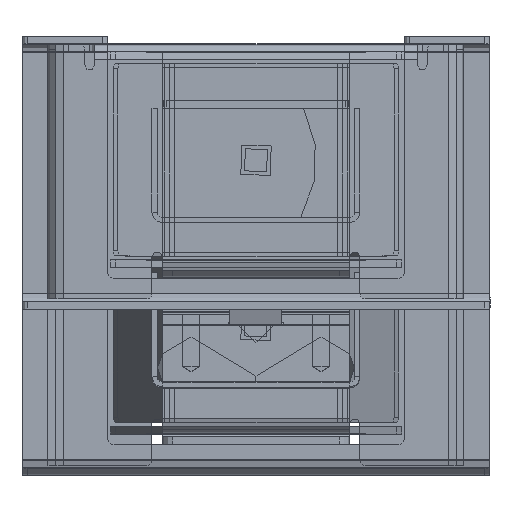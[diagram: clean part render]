
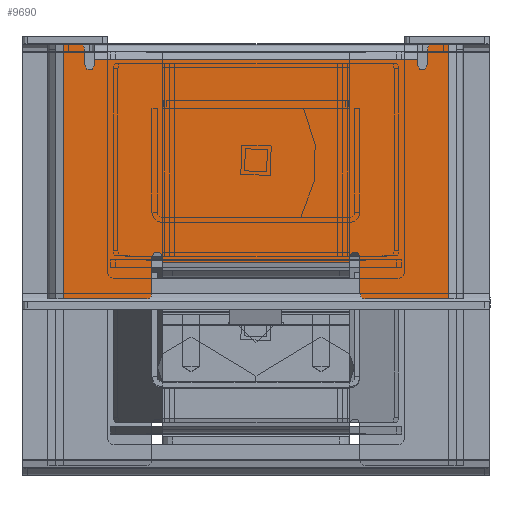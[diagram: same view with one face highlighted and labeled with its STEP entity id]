
A CAD part, top view. The second image highlights one B-rep face of the part: STEP entity #9690.
In plain terms, the highlighted planar face has unit normal (0, 0, 1).
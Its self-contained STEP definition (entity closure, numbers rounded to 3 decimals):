
#298=PLANE('',#10496);
#776=FACE_OUTER_BOUND('',#1346,.T.);
#1346=EDGE_LOOP('',(#7460,#7461,#7462,#7463,#7464,#7465,#7466,#7467,#7468,
#7469,#7470,#7471,#7472,#7473,#7474,#7475,#7476,#7477,#7478,#7479,#7480,
#7481,#7482,#7483));
#2085=LINE('',#15002,#3045);
#2104=LINE('',#15056,#3064);
#2151=LINE('',#15189,#3111);
#2155=LINE('',#15199,#3115);
#2159=LINE('',#15209,#3119);
#2163=LINE('',#15223,#3123);
#2165=LINE('',#15228,#3125);
#2166=LINE('',#15229,#3126);
#2167=LINE('',#15231,#3127);
#2168=LINE('',#15232,#3128);
#2169=LINE('',#15233,#3129);
#2170=LINE('',#15234,#3130);
#2171=LINE('',#15236,#3131);
#2172=LINE('',#15237,#3132);
#2173=LINE('',#15239,#3133);
#2174=LINE('',#15242,#3134);
#3045=VECTOR('',#12262,10.);
#3064=VECTOR('',#12303,10.);
#3111=VECTOR('',#12424,10.);
#3115=VECTOR('',#12434,10.);
#3119=VECTOR('',#12444,10.);
#3123=VECTOR('',#12462,10.);
#3125=VECTOR('',#12466,10.);
#3126=VECTOR('',#12467,10.);
#3127=VECTOR('',#12468,10.);
#3128=VECTOR('',#12469,10.);
#3129=VECTOR('',#12470,10.);
#3130=VECTOR('',#12471,10.);
#3131=VECTOR('',#12472,10.);
#3132=VECTOR('',#12473,10.);
#3133=VECTOR('',#12474,10.);
#3134=VECTOR('',#12477,10.);
#3704=CIRCLE('',#10432,1.);
#3713=CIRCLE('',#10444,1.);
#3732=CIRCLE('',#10481,1.);
#3733=CIRCLE('',#10484,1.);
#3734=CIRCLE('',#10487,1.);
#3735=CIRCLE('',#10490,1.);
#3736=CIRCLE('',#10494,1.);
#3737=CIRCLE('',#10497,1.);
#4273=VERTEX_POINT('',#14989);
#4274=VERTEX_POINT('',#14990);
#4278=VERTEX_POINT('',#15000);
#4300=VERTEX_POINT('',#15048);
#4301=VERTEX_POINT('',#15050);
#4302=VERTEX_POINT('',#15054);
#4349=VERTEX_POINT('',#15182);
#4350=VERTEX_POINT('',#15183);
#4351=VERTEX_POINT('',#15188);
#4352=VERTEX_POINT('',#15192);
#4353=VERTEX_POINT('',#15194);
#4354=VERTEX_POINT('',#15198);
#4355=VERTEX_POINT('',#15202);
#4356=VERTEX_POINT('',#15206);
#4357=VERTEX_POINT('',#15208);
#4358=VERTEX_POINT('',#15212);
#4359=VERTEX_POINT('',#15218);
#4360=VERTEX_POINT('',#15222);
#4361=VERTEX_POINT('',#15226);
#4362=VERTEX_POINT('',#15227);
#4363=VERTEX_POINT('',#15230);
#4364=VERTEX_POINT('',#15235);
#4365=VERTEX_POINT('',#15238);
#4366=VERTEX_POINT('',#15240);
#5335=EDGE_CURVE('',#4273,#4274,#3704,.T.);
#5341=EDGE_CURVE('',#4273,#4278,#2085,.T.);
#5365=EDGE_CURVE('',#4300,#4301,#3713,.T.);
#5368=EDGE_CURVE('',#4302,#4300,#2104,.T.);
#5431=EDGE_CURVE('',#4349,#4350,#3732,.T.);
#5434=EDGE_CURVE('',#4351,#4350,#2151,.T.);
#5437=EDGE_CURVE('',#4352,#4353,#3733,.T.);
#5439=EDGE_CURVE('',#4354,#4353,#2155,.T.);
#5441=EDGE_CURVE('',#4355,#4278,#3734,.T.);
#5444=EDGE_CURVE('',#4357,#4356,#2159,.T.);
#5446=EDGE_CURVE('',#4358,#4356,#3735,.T.);
#5448=EDGE_CURVE('',#4354,#4359,#3736,.T.);
#5450=EDGE_CURVE('',#4359,#4360,#2163,.T.);
#5452=EDGE_CURVE('',#4361,#4362,#2165,.T.);
#5453=EDGE_CURVE('',#4274,#4362,#2166,.T.);
#5454=EDGE_CURVE('',#4355,#4363,#2167,.T.);
#5455=EDGE_CURVE('',#4363,#4357,#2168,.T.);
#5456=EDGE_CURVE('',#4358,#4301,#2169,.T.);
#5457=EDGE_CURVE('',#4302,#4360,#2170,.T.);
#5458=EDGE_CURVE('',#4352,#4364,#2171,.T.);
#5459=EDGE_CURVE('',#4364,#4351,#2172,.T.);
#5460=EDGE_CURVE('',#4349,#4365,#2173,.T.);
#5461=EDGE_CURVE('',#4366,#4365,#3737,.T.);
#5462=EDGE_CURVE('',#4361,#4366,#2174,.T.);
#7460=ORIENTED_EDGE('',*,*,#5452,.T.);
#7461=ORIENTED_EDGE('',*,*,#5453,.F.);
#7462=ORIENTED_EDGE('',*,*,#5335,.F.);
#7463=ORIENTED_EDGE('',*,*,#5341,.T.);
#7464=ORIENTED_EDGE('',*,*,#5441,.F.);
#7465=ORIENTED_EDGE('',*,*,#5454,.T.);
#7466=ORIENTED_EDGE('',*,*,#5455,.T.);
#7467=ORIENTED_EDGE('',*,*,#5444,.T.);
#7468=ORIENTED_EDGE('',*,*,#5446,.F.);
#7469=ORIENTED_EDGE('',*,*,#5456,.T.);
#7470=ORIENTED_EDGE('',*,*,#5365,.F.);
#7471=ORIENTED_EDGE('',*,*,#5368,.F.);
#7472=ORIENTED_EDGE('',*,*,#5457,.T.);
#7473=ORIENTED_EDGE('',*,*,#5450,.F.);
#7474=ORIENTED_EDGE('',*,*,#5448,.F.);
#7475=ORIENTED_EDGE('',*,*,#5439,.T.);
#7476=ORIENTED_EDGE('',*,*,#5437,.F.);
#7477=ORIENTED_EDGE('',*,*,#5458,.T.);
#7478=ORIENTED_EDGE('',*,*,#5459,.T.);
#7479=ORIENTED_EDGE('',*,*,#5434,.T.);
#7480=ORIENTED_EDGE('',*,*,#5431,.F.);
#7481=ORIENTED_EDGE('',*,*,#5460,.T.);
#7482=ORIENTED_EDGE('',*,*,#5461,.F.);
#7483=ORIENTED_EDGE('',*,*,#5462,.F.);
#9690=ADVANCED_FACE('',(#776),#298,.T.);
#10432=AXIS2_PLACEMENT_3D('',#14991,#12252,#12253);
#10444=AXIS2_PLACEMENT_3D('',#15051,#12297,#12298);
#10481=AXIS2_PLACEMENT_3D('',#15184,#12418,#12419);
#10484=AXIS2_PLACEMENT_3D('',#15195,#12429,#12430);
#10487=AXIS2_PLACEMENT_3D('',#15203,#12438,#12439);
#10490=AXIS2_PLACEMENT_3D('',#15213,#12448,#12449);
#10494=AXIS2_PLACEMENT_3D('',#15219,#12457,#12458);
#10496=AXIS2_PLACEMENT_3D('',#15225,#12464,#12465);
#10497=AXIS2_PLACEMENT_3D('',#15241,#12475,#12476);
#12252=DIRECTION('center_axis',(0.,0.,
-1.));
#12253=DIRECTION('ref_axis',(0.707,-0.707,0.));
#12262=DIRECTION('',(0.,1.,0.));
#12297=DIRECTION('center_axis',(0.,0.,
-1.));
#12298=DIRECTION('ref_axis',(-0.707,-0.707,0.));
#12303=DIRECTION('',(-1.,0.,0.));
#12418=DIRECTION('center_axis',(0.,0.,
1.));
#12419=DIRECTION('ref_axis',(-0.707,-0.707,0.));
#12424=DIRECTION('',(0.,-1.,0.));
#12429=DIRECTION('center_axis',(0.,0.,
1.));
#12430=DIRECTION('ref_axis',(-0.707,-0.707,0.));
#12434=DIRECTION('',(0.,-1.,0.));
#12438=DIRECTION('center_axis',(0.,0.,
1.));
#12439=DIRECTION('ref_axis',(0.707,0.707,0.));
#12444=DIRECTION('',(0.,1.,0.));
#12448=DIRECTION('center_axis',(0.,0.,
1.));
#12449=DIRECTION('ref_axis',(0.707,0.707,0.));
#12457=DIRECTION('center_axis',(0.,0.,
-1.));
#12458=DIRECTION('ref_axis',(-0.707,0.707,0.));
#12462=DIRECTION('',(1.,0.,0.));
#12464=DIRECTION('center_axis',(0.,0.,
1.));
#12465=DIRECTION('ref_axis',(0.,-1.,0.));
#12466=DIRECTION('',(0.,-1.,0.));
#12467=DIRECTION('',(-1.,0.,0.));
#12468=DIRECTION('',(0.,-1.,0.));
#12469=DIRECTION('',(1.,0.,0.));
#12470=DIRECTION('',(0.,-1.,0.));
#12471=DIRECTION('',(0.,1.,0.));
#12472=DIRECTION('',(0.,1.,0.));
#12473=DIRECTION('',(-1.,0.,0.));
#12474=DIRECTION('',(0.,1.,0.));
#12475=DIRECTION('center_axis',(0.,0.,
-1.));
#12476=DIRECTION('ref_axis',(0.707,0.707,0.));
#12477=DIRECTION('',(1.,0.,0.));
#14989=CARTESIAN_POINT('',(-20.,-23.498,18373.5));
#14990=CARTESIAN_POINT('',(-21.,-24.498,18373.5));
#14991=CARTESIAN_POINT('Origin',(-21.,-23.498,18373.5));
#15000=CARTESIAN_POINT('',(-20.,-16.498,18373.5));
#15002=CARTESIAN_POINT('',(-20.,-12.248,18373.5));
#15048=CARTESIAN_POINT('',(21.,-24.498,18373.5));
#15050=CARTESIAN_POINT('',(20.,-23.498,18373.5));
#15051=CARTESIAN_POINT('Origin',(21.,-23.498,18373.5));
#15054=CARTESIAN_POINT('',(37.,-24.498,18373.5));
#15056=CARTESIAN_POINT('',(-40.,-24.498,18373.5));
#15182=CARTESIAN_POINT('',(-33.,20.502,18373.5));
#15183=CARTESIAN_POINT('',(-31.,20.502,18373.5));
#15184=CARTESIAN_POINT('Origin',(-32.,20.502,18373.5));
#15188=CARTESIAN_POINT('',(-31.,21.502,18373.5));
#15189=CARTESIAN_POINT('',(-31.,12.252,18373.5));
#15192=CARTESIAN_POINT('',(31.,20.502,18373.5));
#15194=CARTESIAN_POINT('',(33.,20.502,18373.5));
#15195=CARTESIAN_POINT('Origin',(32.,20.502,18373.5));
#15198=CARTESIAN_POINT('',(33.,23.502,18373.5));
#15199=CARTESIAN_POINT('',(33.,12.252,18373.5));
#15202=CARTESIAN_POINT('',(-18.,-16.498,18373.5));
#15203=CARTESIAN_POINT('Origin',(-19.,-16.498,18373.5));
#15206=CARTESIAN_POINT('',(18.,-16.498,18373.5));
#15208=CARTESIAN_POINT('',(18.,-17.498,18373.5));
#15209=CARTESIAN_POINT('',(18.,-10.248,18373.5));
#15212=CARTESIAN_POINT('',(20.,-16.498,18373.5));
#15213=CARTESIAN_POINT('Origin',(19.,-16.498,18373.5));
#15218=CARTESIAN_POINT('',(34.,24.502,18373.5));
#15219=CARTESIAN_POINT('Origin',(34.,23.502,18373.5));
#15222=CARTESIAN_POINT('',(37.,24.502,18373.5));
#15223=CARTESIAN_POINT('',(40.,24.502,18373.5));
#15225=CARTESIAN_POINT('Origin',(0.,0.002,
18373.5));
#15226=CARTESIAN_POINT('',(-37.,24.502,18373.5));
#15227=CARTESIAN_POINT('',(-37.,-24.498,18373.5));
#15228=CARTESIAN_POINT('',(-37.,12.252,18373.5));
#15229=CARTESIAN_POINT('',(-40.,-24.498,18373.5));
#15230=CARTESIAN_POINT('',(-18.,-17.498,18373.5));
#15231=CARTESIAN_POINT('',(-18.,-7.748,18373.5));
#15232=CARTESIAN_POINT('',(-9.,-17.498,18373.5));
#15233=CARTESIAN_POINT('',(20.,-7.748,18373.5));
#15234=CARTESIAN_POINT('',(37.,-12.248,18373.5));
#15235=CARTESIAN_POINT('',(31.,21.502,18373.5));
#15236=CARTESIAN_POINT('',(31.,9.752,18373.5));
#15237=CARTESIAN_POINT('',(15.5,21.502,18373.5));
#15238=CARTESIAN_POINT('',(-33.,23.502,18373.5));
#15239=CARTESIAN_POINT('',(-33.,9.752,18373.5));
#15240=CARTESIAN_POINT('',(-34.,24.502,18373.5));
#15241=CARTESIAN_POINT('Origin',(-34.,23.502,18373.5));
#15242=CARTESIAN_POINT('',(40.,24.502,18373.5));
